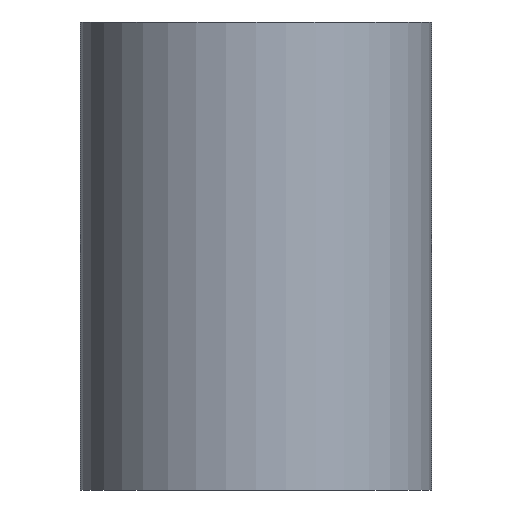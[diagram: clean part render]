
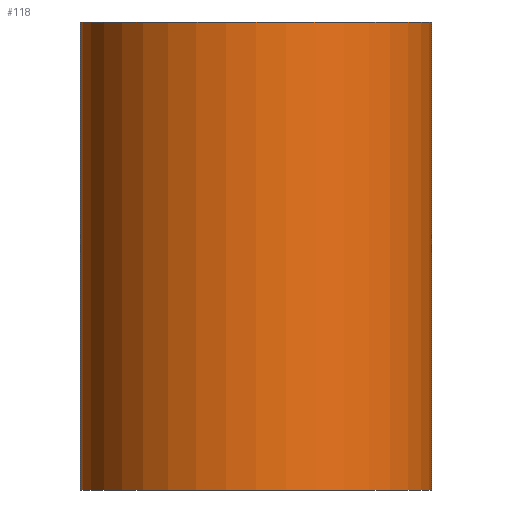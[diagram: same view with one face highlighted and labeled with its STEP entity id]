
A CAD part, front view. The second image highlights one B-rep face of the part: STEP entity #118.
In plain terms, the highlighted cylindrical face has radius 15 mm (diameter 30 mm), a partial arc.
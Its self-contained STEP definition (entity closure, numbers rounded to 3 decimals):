
#100=CYLINDRICAL_SURFACE('',#199,15.);
#104=FACE_OUTER_BOUND('',#132,.T.);
#107=LINE('',#257,#111);
#108=LINE('',#258,#112);
#111=VECTOR('',#228,1.);
#112=VECTOR('',#229,1.);
#118=ADVANCED_FACE('',(#104),#100,.T.);
#132=EDGE_LOOP('',(#153,#154,#155,#156));
#153=ORIENTED_EDGE('',*,*,#175,.F.);
#154=ORIENTED_EDGE('',*,*,#174,.T.);
#155=ORIENTED_EDGE('',*,*,#176,.T.);
#156=ORIENTED_EDGE('',*,*,#165,.F.);
#157=VERTEX_POINT('',#236);
#158=VERTEX_POINT('',#237);
#163=VERTEX_POINT('',#253);
#164=VERTEX_POINT('',#254);
#165=EDGE_CURVE('',#157,#158,#177,.T.);
#174=EDGE_CURVE('',#164,#163,#184,.T.);
#175=EDGE_CURVE('',#164,#157,#107,.T.);
#176=EDGE_CURVE('',#163,#158,#108,.T.);
#177=CIRCLE('',#186,15.);
#184=CIRCLE('',#196,15.);
#186=AXIS2_PLACEMENT_3D('',#235,#202,#203);
#196=AXIS2_PLACEMENT_3D('',#255,#224,#225);
#199=AXIS2_PLACEMENT_3D('',#260,#232,#233);
#202=DIRECTION('',(0.,0.,1.));
#203=DIRECTION('',(0.,1.,0.));
#224=DIRECTION('',(0.,0.,1.));
#225=DIRECTION('',(0.,1.,0.));
#228=DIRECTION('',(0.,0.,1.));
#229=DIRECTION('',(0.,0.,1.));
#232=DIRECTION('',(0.,0.,1.));
#233=DIRECTION('',(0.,-1.,0.));
#235=CARTESIAN_POINT('',(0.,0.,40.));
#236=CARTESIAN_POINT('',(-15.,0.,40.));
#237=CARTESIAN_POINT('',(15.,0.,40.));
#253=CARTESIAN_POINT('',(15.,0.,0.));
#254=CARTESIAN_POINT('',(-15.,0.,0.));
#255=CARTESIAN_POINT('',(0.,0.,0.));
#257=CARTESIAN_POINT('',(-15.,0.,40.));
#258=CARTESIAN_POINT('',(15.,0.,40.));
#260=CARTESIAN_POINT('',(0.,0.,0.));
